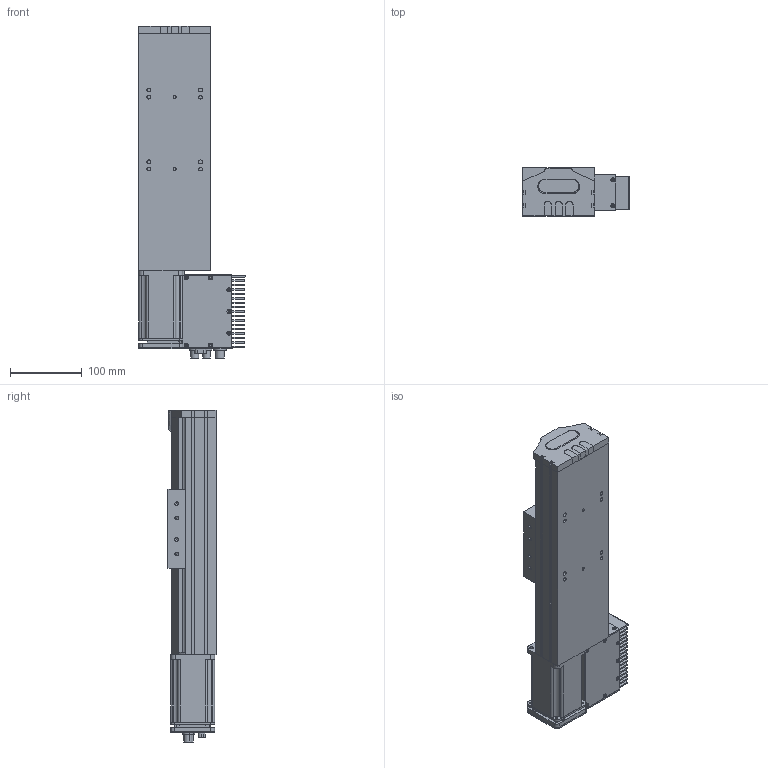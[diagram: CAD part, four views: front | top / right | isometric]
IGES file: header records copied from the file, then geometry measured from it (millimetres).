
Start section: SolidWorks IGES file using analytic representation for surfaces
Global section: file name: C:\Documents and Settings\1EDPI\Mes documents\yanize\S 10 TSH MD\S 10 TSH MD S100.IGS; native system: SolidWorks 2010; preprocessor: SolidWorks 2010; author: 1EDPI; date: 120829.093214; units: millimetre
Bounding box: 148.26 x 66.75 x 461.6 mm (x, y, z)
Surface area: 415909.3 mm2 (no closed solid volume)
Topology: 0 solids, 0 shells, 1706 faces, 23016 edges, 22988 vertices
Faces by surface type: revolution 908, bspline 798
